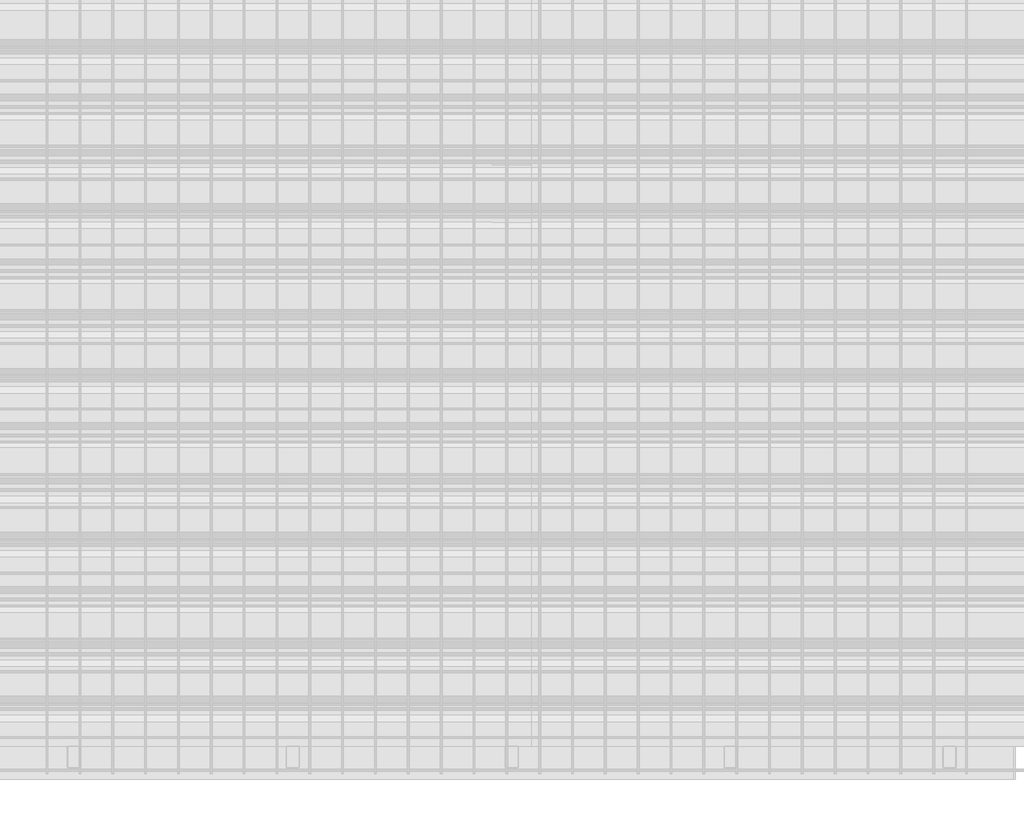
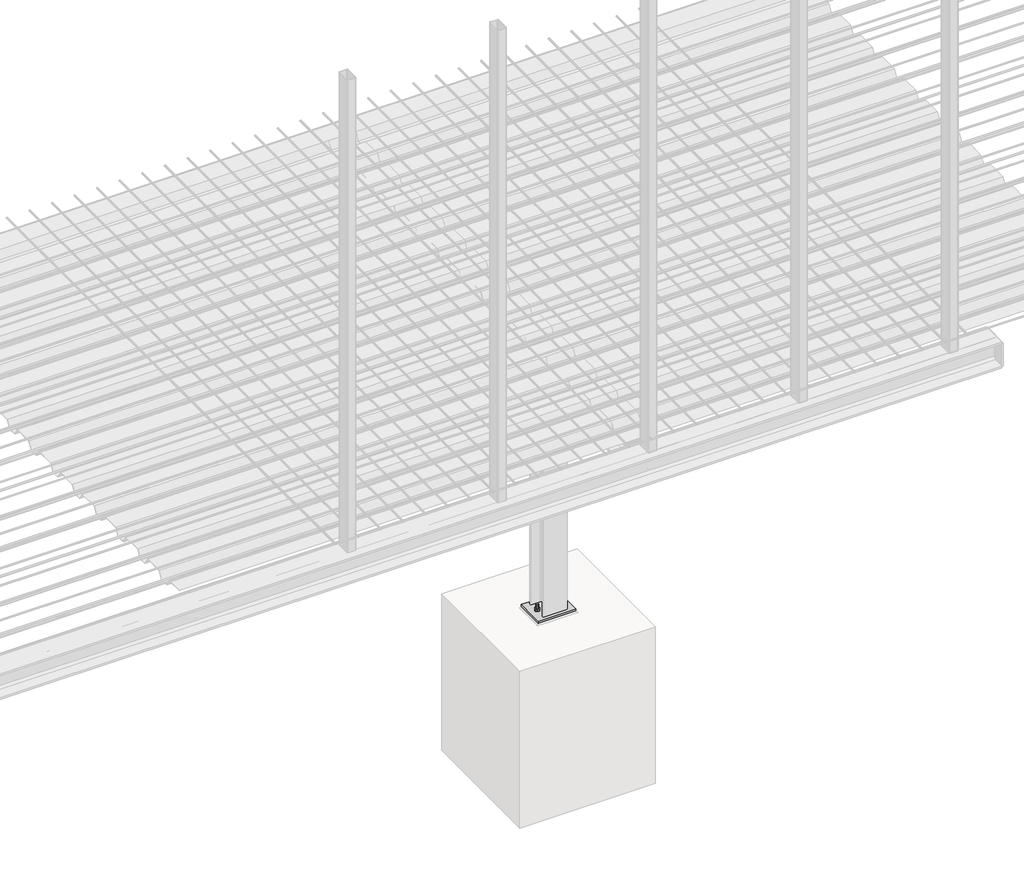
# One storey, part 10 of 36: 9 proxies.
"""IFC4 building model written with IfcOpenShell, lengths in millimetres."""

from ifc_helpers import new_model, si_unit, point, frame, frame_2d, origin, place, context, project, spatial, polyline, circle_curve, trimmed, segment, composite_curve, outline, extrude, element, save

model = new_model("IFC4")

# Units and contexts
model_context = context("Model", 3, world=origin())
ifc_project = project(units=[si_unit("LENGTHUNIT", "METRE", prefix="MILLI")], contexts=[model_context])

# Site, building, storey
site = spatial("IfcSite", under=ifc_project)
building = spatial("IfcBuilding", under=site)
storey = spatial("IfcBuildingStorey", under=building, Name="Základy", Elevation=-1200.0)

# Proxies
placement = place(None, origin())
element("IfcBuildingElementProxy", 1, Name="PLECH", ObjectType="PLECH", at=placement, inside=storey, context=model_context, shape_type="SweptSolid", body=[
    extrude(outline(polyline([(6150.0, 1200.0), (6150.0, 1320.0), (6160.0, 1320.0), (6160.0, 1200.0), (6150.0, 1200.0)])), frame((0.0, 0.0, -299.0), z_axis=(0.0, 0.0, 1.0), x_axis=(1.0, 0.0, 0.0)), (0.0, 0.0, 1.0), 98.0),
])
element("IfcBuildingElementProxy", 2, Name="PLECH", ObjectType="PLECH", at=placement, inside=storey, context=model_context, shape_type="SweptSolid", body=[
    extrude(outline(polyline([(6140.0, 1200.0), (6140.0, 1320.0), (6150.0, 1320.0), (6150.0, 1200.0), (6140.0, 1200.0)])), frame((0.0, 0.0, -332.0), z_axis=(0.0, 0.0, 1.0), x_axis=(1.0, 0.0, 0.0)), (0.0, 0.0, 1.0), 164.0),
])
element("IfcBuildingElementProxy", 3, Name="PLECH", ObjectType="PLECH", at=placement, inside=storey, context=model_context, shape_type="SweptSolid", body=[
    extrude(outline(composite_curve([segment(polyline([(-174.0, 6140.0), (-174.0, 6079.5)]), True, "CONTINUOUS"), segment(trimmed(circle_curve(frame_2d((-174.0, 6054.5)), 25.0), [point((-174.0, 6079.5))], [point((-199.0, 6054.5))], True, "CARTESIAN"), True, "CONTINUOUS"), segment(polyline([(-199.0, 6054.5), (-301.0, 6054.5)]), True, "CONTINUOUS"), segment(trimmed(circle_curve(frame_2d((-326.0, 6054.5)), 25.0), [point((-301.0, 6054.5))], [point((-326.0, 6079.5))], True, "CARTESIAN"), True, "CONTINUOUS"), segment(polyline([(-326.0, 6079.5), (-326.0, 6140.0), (-174.0, 6140.0)]), True, "CONTINUOUS")], self_intersect=False)), frame((0.0, 1256.0, 0.0), z_axis=(0.0, 1.0, 0.0), x_axis=(0.0, 0.0, 1.0)), (0.0, 0.0, 1.0), 8.0),
])
element("IfcBuildingElementProxy", 4, Name="PLECH", ObjectType="PLECH", at=placement, inside=storey, context=model_context, shape_type="SweptSolid", body=[
    extrude(outline(composite_curve([segment(polyline([(-174.0, 5960.0), (-326.0, 5960.0), (-326.0, 6020.5)]), True, "CONTINUOUS"), segment(trimmed(circle_curve(frame_2d((-326.0, 6045.5)), 25.0), [point((-326.0, 6020.5))], [point((-301.0, 6045.5))], True, "CARTESIAN"), True, "CONTINUOUS"), segment(polyline([(-301.0, 6045.5), (-199.0, 6045.5)]), True, "CONTINUOUS"), segment(trimmed(circle_curve(frame_2d((-174.0, 6045.5)), 25.0), [point((-199.0, 6045.5))], [point((-174.0, 6020.5))], True, "CARTESIAN"), True, "CONTINUOUS"), segment(polyline([(-174.0, 6020.5), (-174.0, 5960.0)]), True, "CONTINUOUS")], self_intersect=False)), frame((0.0, 1256.0, 0.0), z_axis=(0.0, 1.0, 0.0), x_axis=(0.0, 0.0, 1.0)), (0.0, 0.0, 1.0), 8.0),
])
element("IfcBuildingElementProxy", 5, Name="PLECH", ObjectType="PLECH", at=placement, inside=storey, context=model_context, shape_type="SweptSolid", body=[
    extrude(outline(polyline([(6175.0, 1356.0), (6175.0, 1164.0), (5925.0, 1164.0), (5925.0, 1356.0), (6175.0, 1356.0)])), frame((0.0, 0.0, -1990.0), z_axis=(0.0, 0.0, 1.0), x_axis=(1.0, 0.0, 0.0)), (0.0, 0.0, 1.0), 15.0),
])
element("IfcBuildingElementProxy", 6, Name="PLECH", ObjectType="PLECH", at=placement, inside=storey, context=model_context, shape_type="SweptSolid", body=[
    extrude(outline(polyline([(6140.0, 1346.0), (6140.0, 1174.0), (5960.0, 1174.0), (5960.0, 1346.0), (6140.0, 1346.0)])), frame((0.0, 0.0, -350.0), z_axis=(0.0, 0.0, 1.0), x_axis=(1.0, 0.0, 0.0)), (0.0, 0.0, 1.0), 10.0),
])
element("IfcBuildingElementProxy", 7, Name="Bolt assembly", ObjectType="Bolt assembly", at=placement, inside=storey, context=model_context, shape_type="SweptSolid", body=[
    extrude(outline(composite_curve([segment(trimmed(circle_curve(frame_2d((1230.0, -225.0)), 6.5), [point((1230.0, -231.5))], [point((1230.0, -218.5))], False, "CARTESIAN"), True, "CONTINUOUS"), segment(trimmed(circle_curve(frame_2d((1230.0, -225.0)), 6.5), [point((1230.0, -218.5))], [point((1230.0, -231.5))], False, "CARTESIAN"), True, "CONTINUOUS")], self_intersect=False)), frame((6140.1, 0.0, 0.0), z_axis=(1.0, 0.0, 0.0), x_axis=(0.0, 1.0, 0.0)), (0.0, 0.0, 1.0), 10.0),
    extrude(outline(polyline([(1230.0, -235.3923048), (1221.0, -230.1961524), (1221.0, -219.8038476), (1230.0, -214.6076952), (1239.0, -219.8038476), (1239.0, -230.1961524), (1230.0, -235.3923048)])), frame((6130.0, 0.0, 0.0), z_axis=(1.0, 0.0, 0.0), x_axis=(0.0, 1.0, 0.0)), (0.0, 0.0, 1.0), 7.5),
    extrude(outline(composite_curve([segment(trimmed(circle_curve(frame_2d((1230.0, -225.0)), 6.0), [point((1230.0, -231.0))], [point((1230.0, -219.0))], False, "CARTESIAN"), True, "CONTINUOUS"), segment(trimmed(circle_curve(frame_2d((1230.0, -225.0)), 6.0), [point((1230.0, -219.0))], [point((1230.0, -231.0))], False, "CARTESIAN"), True, "CONTINUOUS")], self_intersect=False)), frame((6137.5, 0.0, 0.0), z_axis=(1.0, 0.0, 0.0), x_axis=(0.0, 1.0, 0.0)), (0.0, 0.0, 1.0), 40.0),
    extrude(outline(composite_curve([segment(trimmed(circle_curve(frame_2d((1230.0, -225.0)), 12.0), [point((1230.0, -237.0))], [point((1230.0, -213.0))], False, "CARTESIAN"), True, "CONTINUOUS"), segment(trimmed(circle_curve(frame_2d((1230.0, -225.0)), 12.0), [point((1230.0, -213.0))], [point((1230.0, -237.0))], False, "CARTESIAN"), True, "CONTINUOUS")], self_intersect=False)), frame((6137.5, 0.0, 0.0), z_axis=(1.0, 0.0, 0.0), x_axis=(0.0, 1.0, 0.0)), (0.0, 0.0, 1.0), 2.5),
    extrude(outline(composite_curve([segment(trimmed(circle_curve(frame_2d((1230.0, -225.0)), 12.0), [point((1230.0, -237.0))], [point((1230.0, -213.0))], False, "CARTESIAN"), True, "CONTINUOUS"), segment(trimmed(circle_curve(frame_2d((1230.0, -225.0)), 12.0), [point((1230.0, -213.0))], [point((1230.0, -237.0))], False, "CARTESIAN"), True, "CONTINUOUS")], self_intersect=False)), frame((6160.0, 0.0, 0.0), z_axis=(1.0, 0.0, 0.0), x_axis=(0.0, 1.0, 0.0)), (0.0, 0.0, 1.0), 2.5),
    extrude(outline(polyline([(1230.0, -235.9696551), (1220.5, -230.4848276), (1220.5, -219.5151724), (1230.0, -214.0303449), (1239.5, -219.5151724), (1239.5, -230.4848276), (1230.0, -235.9696551)])), frame((6162.5, 0.0, 0.0), z_axis=(1.0, 0.0, 0.0), x_axis=(0.0, 1.0, 0.0)), (0.0, 0.0, 1.0), 10.0),
    extrude(outline(composite_curve([segment(trimmed(circle_curve(frame_2d((1230.0, -225.0)), 6.5), [point((1230.0, -231.5))], [point((1230.0, -218.5))], False, "CARTESIAN"), True, "CONTINUOUS"), segment(trimmed(circle_curve(frame_2d((1230.0, -225.0)), 6.5), [point((1230.0, -218.5))], [point((1230.0, -231.5))], False, "CARTESIAN"), True, "CONTINUOUS")], self_intersect=False)), frame((6149.9, 0.0, 0.0), z_axis=(1.0, 0.0, 0.0), x_axis=(0.0, 1.0, 0.0)), (0.0, 0.0, 1.0), 10.1),
    extrude(outline(composite_curve([segment(trimmed(circle_curve(frame_2d((1230.0, -275.0)), 6.5), [point((1230.0, -281.5))], [point((1230.0, -268.5))], False, "CARTESIAN"), True, "CONTINUOUS"), segment(trimmed(circle_curve(frame_2d((1230.0, -275.0)), 6.5), [point((1230.0, -268.5))], [point((1230.0, -281.5))], False, "CARTESIAN"), True, "CONTINUOUS")], self_intersect=False)), frame((6140.1, 0.0, 0.0), z_axis=(1.0, 0.0, 0.0), x_axis=(0.0, 1.0, 0.0)), (0.0, 0.0, 1.0), 10.0),
    extrude(outline(polyline([(1230.0, -285.3923048), (1221.0, -280.1961524), (1221.0, -269.8038476), (1230.0, -264.6076952), (1239.0, -269.8038476), (1239.0, -280.1961524), (1230.0, -285.3923048)])), frame((6130.0, 0.0, 0.0), z_axis=(1.0, 0.0, 0.0), x_axis=(0.0, 1.0, 0.0)), (0.0, 0.0, 1.0), 7.5),
    extrude(outline(composite_curve([segment(trimmed(circle_curve(frame_2d((1230.0, -275.0)), 6.0), [point((1230.0, -281.0))], [point((1230.0, -269.0))], False, "CARTESIAN"), True, "CONTINUOUS"), segment(trimmed(circle_curve(frame_2d((1230.0, -275.0)), 6.0), [point((1230.0, -269.0))], [point((1230.0, -281.0))], False, "CARTESIAN"), True, "CONTINUOUS")], self_intersect=False)), frame((6137.5, 0.0, 0.0), z_axis=(1.0, 0.0, 0.0), x_axis=(0.0, 1.0, 0.0)), (0.0, 0.0, 1.0), 40.0),
    extrude(outline(composite_curve([segment(trimmed(circle_curve(frame_2d((1230.0, -275.0)), 12.0), [point((1230.0, -287.0))], [point((1230.0, -263.0))], False, "CARTESIAN"), True, "CONTINUOUS"), segment(trimmed(circle_curve(frame_2d((1230.0, -275.0)), 12.0), [point((1230.0, -263.0))], [point((1230.0, -287.0))], False, "CARTESIAN"), True, "CONTINUOUS")], self_intersect=False)), frame((6137.5, 0.0, 0.0), z_axis=(1.0, 0.0, 0.0), x_axis=(0.0, 1.0, 0.0)), (0.0, 0.0, 1.0), 2.5),
    extrude(outline(composite_curve([segment(trimmed(circle_curve(frame_2d((1230.0, -275.0)), 12.0), [point((1230.0, -287.0))], [point((1230.0, -263.0))], False, "CARTESIAN"), True, "CONTINUOUS"), segment(trimmed(circle_curve(frame_2d((1230.0, -275.0)), 12.0), [point((1230.0, -263.0))], [point((1230.0, -287.0))], False, "CARTESIAN"), True, "CONTINUOUS")], self_intersect=False)), frame((6160.0, 0.0, 0.0), z_axis=(1.0, 0.0, 0.0), x_axis=(0.0, 1.0, 0.0)), (0.0, 0.0, 1.0), 2.5),
    extrude(outline(polyline([(1230.0, -285.9696551), (1220.5, -280.4848276), (1220.5, -269.5151724), (1230.0, -264.0303449), (1239.5, -269.5151724), (1239.5, -280.4848276), (1230.0, -285.9696551)])), frame((6162.5, 0.0, 0.0), z_axis=(1.0, 0.0, 0.0), x_axis=(0.0, 1.0, 0.0)), (0.0, 0.0, 1.0), 10.0),
    extrude(outline(composite_curve([segment(trimmed(circle_curve(frame_2d((1230.0, -275.0)), 6.5), [point((1230.0, -281.5))], [point((1230.0, -268.5))], False, "CARTESIAN"), True, "CONTINUOUS"), segment(trimmed(circle_curve(frame_2d((1230.0, -275.0)), 6.5), [point((1230.0, -268.5))], [point((1230.0, -281.5))], False, "CARTESIAN"), True, "CONTINUOUS")], self_intersect=False)), frame((6149.9, 0.0, 0.0), z_axis=(1.0, 0.0, 0.0), x_axis=(0.0, 1.0, 0.0)), (0.0, 0.0, 1.0), 10.1),
    extrude(outline(composite_curve([segment(trimmed(circle_curve(frame_2d((1290.0, -225.0)), 6.5), [point((1290.0, -231.5))], [point((1290.0, -218.5))], False, "CARTESIAN"), True, "CONTINUOUS"), segment(trimmed(circle_curve(frame_2d((1290.0, -225.0)), 6.5), [point((1290.0, -218.5))], [point((1290.0, -231.5))], False, "CARTESIAN"), True, "CONTINUOUS")], self_intersect=False)), frame((6140.1, 0.0, 0.0), z_axis=(1.0, 0.0, 0.0), x_axis=(0.0, 1.0, 0.0)), (0.0, 0.0, 1.0), 10.0),
    extrude(outline(polyline([(1290.0, -235.3923048), (1281.0, -230.1961524), (1281.0, -219.8038476), (1290.0, -214.6076952), (1299.0, -219.8038476), (1299.0, -230.1961524), (1290.0, -235.3923048)])), frame((6130.0, 0.0, 0.0), z_axis=(1.0, 0.0, 0.0), x_axis=(0.0, 1.0, 0.0)), (0.0, 0.0, 1.0), 7.5),
    extrude(outline(composite_curve([segment(trimmed(circle_curve(frame_2d((1290.0, -225.0)), 6.0), [point((1290.0, -231.0))], [point((1290.0, -219.0))], False, "CARTESIAN"), True, "CONTINUOUS"), segment(trimmed(circle_curve(frame_2d((1290.0, -225.0)), 6.0), [point((1290.0, -219.0))], [point((1290.0, -231.0))], False, "CARTESIAN"), True, "CONTINUOUS")], self_intersect=False)), frame((6137.5, 0.0, 0.0), z_axis=(1.0, 0.0, 0.0), x_axis=(0.0, 1.0, 0.0)), (0.0, 0.0, 1.0), 40.0),
    extrude(outline(composite_curve([segment(trimmed(circle_curve(frame_2d((1290.0, -225.0)), 12.0), [point((1290.0, -237.0))], [point((1290.0, -213.0))], False, "CARTESIAN"), True, "CONTINUOUS"), segment(trimmed(circle_curve(frame_2d((1290.0, -225.0)), 12.0), [point((1290.0, -213.0))], [point((1290.0, -237.0))], False, "CARTESIAN"), True, "CONTINUOUS")], self_intersect=False)), frame((6137.5, 0.0, 0.0), z_axis=(1.0, 0.0, 0.0), x_axis=(0.0, 1.0, 0.0)), (0.0, 0.0, 1.0), 2.5),
    extrude(outline(composite_curve([segment(trimmed(circle_curve(frame_2d((1290.0, -225.0)), 12.0), [point((1290.0, -237.0))], [point((1290.0, -213.0))], False, "CARTESIAN"), True, "CONTINUOUS"), segment(trimmed(circle_curve(frame_2d((1290.0, -225.0)), 12.0), [point((1290.0, -213.0))], [point((1290.0, -237.0))], False, "CARTESIAN"), True, "CONTINUOUS")], self_intersect=False)), frame((6160.0, 0.0, 0.0), z_axis=(1.0, 0.0, 0.0), x_axis=(0.0, 1.0, 0.0)), (0.0, 0.0, 1.0), 2.5),
    extrude(outline(polyline([(1290.0, -235.9696551), (1280.5, -230.4848276), (1280.5, -219.5151724), (1290.0, -214.0303449), (1299.5, -219.5151724), (1299.5, -230.4848276), (1290.0, -235.9696551)])), frame((6162.5, 0.0, 0.0), z_axis=(1.0, 0.0, 0.0), x_axis=(0.0, 1.0, 0.0)), (0.0, 0.0, 1.0), 10.0),
    extrude(outline(composite_curve([segment(trimmed(circle_curve(frame_2d((1290.0, -225.0)), 6.5), [point((1290.0, -231.5))], [point((1290.0, -218.5))], False, "CARTESIAN"), True, "CONTINUOUS"), segment(trimmed(circle_curve(frame_2d((1290.0, -225.0)), 6.5), [point((1290.0, -218.5))], [point((1290.0, -231.5))], False, "CARTESIAN"), True, "CONTINUOUS")], self_intersect=False)), frame((6149.9, 0.0, 0.0), z_axis=(1.0, 0.0, 0.0), x_axis=(0.0, 1.0, 0.0)), (0.0, 0.0, 1.0), 10.1),
    extrude(outline(composite_curve([segment(trimmed(circle_curve(frame_2d((1290.0, -275.0)), 6.5), [point((1290.0, -281.5))], [point((1290.0, -268.5))], False, "CARTESIAN"), True, "CONTINUOUS"), segment(trimmed(circle_curve(frame_2d((1290.0, -275.0)), 6.5), [point((1290.0, -268.5))], [point((1290.0, -281.5))], False, "CARTESIAN"), True, "CONTINUOUS")], self_intersect=False)), frame((6140.1, 0.0, 0.0), z_axis=(1.0, 0.0, 0.0), x_axis=(0.0, 1.0, 0.0)), (0.0, 0.0, 1.0), 10.0),
    extrude(outline(polyline([(1290.0, -285.3923048), (1281.0, -280.1961524), (1281.0, -269.8038476), (1290.0, -264.6076952), (1299.0, -269.8038476), (1299.0, -280.1961524), (1290.0, -285.3923048)])), frame((6130.0, 0.0, 0.0), z_axis=(1.0, 0.0, 0.0), x_axis=(0.0, 1.0, 0.0)), (0.0, 0.0, 1.0), 7.5),
    extrude(outline(composite_curve([segment(trimmed(circle_curve(frame_2d((1290.0, -275.0)), 6.0), [point((1290.0, -281.0))], [point((1290.0, -269.0))], False, "CARTESIAN"), True, "CONTINUOUS"), segment(trimmed(circle_curve(frame_2d((1290.0, -275.0)), 6.0), [point((1290.0, -269.0))], [point((1290.0, -281.0))], False, "CARTESIAN"), True, "CONTINUOUS")], self_intersect=False)), frame((6137.5, 0.0, 0.0), z_axis=(1.0, 0.0, 0.0), x_axis=(0.0, 1.0, 0.0)), (0.0, 0.0, 1.0), 40.0),
    extrude(outline(composite_curve([segment(trimmed(circle_curve(frame_2d((1290.0, -275.0)), 12.0), [point((1290.0, -287.0))], [point((1290.0, -263.0))], False, "CARTESIAN"), True, "CONTINUOUS"), segment(trimmed(circle_curve(frame_2d((1290.0, -275.0)), 12.0), [point((1290.0, -263.0))], [point((1290.0, -287.0))], False, "CARTESIAN"), True, "CONTINUOUS")], self_intersect=False)), frame((6137.5, 0.0, 0.0), z_axis=(1.0, 0.0, 0.0), x_axis=(0.0, 1.0, 0.0)), (0.0, 0.0, 1.0), 2.5),
    extrude(outline(composite_curve([segment(trimmed(circle_curve(frame_2d((1290.0, -275.0)), 12.0), [point((1290.0, -287.0))], [point((1290.0, -263.0))], False, "CARTESIAN"), True, "CONTINUOUS"), segment(trimmed(circle_curve(frame_2d((1290.0, -275.0)), 12.0), [point((1290.0, -263.0))], [point((1290.0, -287.0))], False, "CARTESIAN"), True, "CONTINUOUS")], self_intersect=False)), frame((6160.0, 0.0, 0.0), z_axis=(1.0, 0.0, 0.0), x_axis=(0.0, 1.0, 0.0)), (0.0, 0.0, 1.0), 2.5),
    extrude(outline(polyline([(1290.0, -285.9696551), (1280.5, -280.4848276), (1280.5, -269.5151724), (1290.0, -264.0303449), (1299.5, -269.5151724), (1299.5, -280.4848276), (1290.0, -285.9696551)])), frame((6162.5, 0.0, 0.0), z_axis=(1.0, 0.0, 0.0), x_axis=(0.0, 1.0, 0.0)), (0.0, 0.0, 1.0), 10.0),
    extrude(outline(composite_curve([segment(trimmed(circle_curve(frame_2d((1290.0, -275.0)), 6.5), [point((1290.0, -281.5))], [point((1290.0, -268.5))], False, "CARTESIAN"), True, "CONTINUOUS"), segment(trimmed(circle_curve(frame_2d((1290.0, -275.0)), 6.5), [point((1290.0, -268.5))], [point((1290.0, -281.5))], False, "CARTESIAN"), True, "CONTINUOUS")], self_intersect=False)), frame((6149.9, 0.0, 0.0), z_axis=(1.0, 0.0, 0.0), x_axis=(0.0, 1.0, 0.0)), (0.0, 0.0, 1.0), 10.1),
])
element("IfcBuildingElementProxy", 8, Name="Bolt assembly", ObjectType="Bolt assembly", at=placement, inside=storey, context=model_context, shape_type="SweptSolid", body=[
    extrude(outline(polyline([(5982.7364934, 1260.0), (5978.8682467, 1253.3000002), (5971.1317533, 1253.3000002), (5967.2635066, 1260.0), (5971.1317533, 1266.6999998), (5978.8682467, 1266.6999998), (5982.7364934, 1260.0)])), frame((0.0, 0.0, -2122.0), z_axis=(0.0, 0.0, 1.0), x_axis=(1.0, 0.0, 0.0)), (0.0, 0.0, 1.0), 132.0),
    extrude(outline(composite_curve([segment(trimmed(circle_curve(frame_2d((5975.0, 1260.0)), 8.0), [point((5983.0, 1260.0))], [point((5967.0, 1260.0))], False, "CARTESIAN"), True, "CONTINUOUS"), segment(trimmed(circle_curve(frame_2d((5975.0, 1260.0)), 8.0), [point((5967.0, 1260.0))], [point((5983.0, 1260.0))], False, "CARTESIAN"), True, "CONTINUOUS")], self_intersect=False)), frame((0.0, 0.0, -1990.0), z_axis=(0.0, 0.0, 1.0), x_axis=(1.0, 0.0, 0.0)), (0.0, 0.0, 1.0), 58.0),
    extrude(outline(composite_curve([segment(trimmed(circle_curve(frame_2d((5975.0, 1260.0)), 15.0), [point((5990.0, 1260.0))], [point((5960.0, 1260.0))], False, "CARTESIAN"), True, "CONTINUOUS"), segment(trimmed(circle_curve(frame_2d((5975.0, 1260.0)), 15.0), [point((5960.0, 1260.0))], [point((5990.0, 1260.0))], False, "CARTESIAN"), True, "CONTINUOUS")], self_intersect=False)), frame((0.0, 0.0, -1975.0), z_axis=(0.0, 0.0, 1.0), x_axis=(1.0, 0.0, 0.0)), (0.0, 0.0, 1.0), 3.0),
    extrude(outline(polyline([(5990.4441197, 1260.0), (5982.7220599, 1246.625), (5967.2779401, 1246.625), (5959.5558803, 1260.0), (5967.2779401, 1273.375), (5982.7220599, 1273.375), (5990.4441197, 1260.0)])), frame((0.0, 0.0, -1972.0), z_axis=(0.0, 0.0, 1.0), x_axis=(1.0, 0.0, 0.0)), (0.0, 0.0, 1.0), 13.0),
    extrude(outline(composite_curve([segment(trimmed(circle_curve(frame_2d((5975.0, 1260.0)), 9.0), [point((5984.0, 1260.0))], [point((5966.0, 1260.0))], False, "CARTESIAN"), True, "CONTINUOUS"), segment(trimmed(circle_curve(frame_2d((5975.0, 1260.0)), 9.0), [point((5966.0, 1260.0))], [point((5984.0, 1260.0))], False, "CARTESIAN"), True, "CONTINUOUS")], self_intersect=False)), frame((0.0, 0.0, -1990.0), z_axis=(0.0, 0.0, 1.0), x_axis=(1.0, 0.0, 0.0)), (0.0, 0.0, 1.0), 15.1),
    extrude(outline(polyline([(6132.7364934, 1260.0), (6128.8682467, 1253.3000002), (6121.1317533, 1253.3000002), (6117.2635066, 1260.0), (6121.1317533, 1266.6999998), (6128.8682467, 1266.6999998), (6132.7364934, 1260.0)])), frame((0.0, 0.0, -2122.0), z_axis=(0.0, 0.0, 1.0), x_axis=(1.0, 0.0, 0.0)), (0.0, 0.0, 1.0), 132.0),
    extrude(outline(composite_curve([segment(trimmed(circle_curve(frame_2d((6125.0, 1260.0)), 8.0), [point((6133.0, 1260.0))], [point((6117.0, 1260.0))], False, "CARTESIAN"), True, "CONTINUOUS"), segment(trimmed(circle_curve(frame_2d((6125.0, 1260.0)), 8.0), [point((6117.0, 1260.0))], [point((6133.0, 1260.0))], False, "CARTESIAN"), True, "CONTINUOUS")], self_intersect=False)), frame((0.0, 0.0, -1990.0), z_axis=(0.0, 0.0, 1.0), x_axis=(1.0, 0.0, 0.0)), (0.0, 0.0, 1.0), 58.0),
    extrude(outline(composite_curve([segment(trimmed(circle_curve(frame_2d((6125.0, 1260.0)), 15.0), [point((6140.0, 1260.0))], [point((6110.0, 1260.0))], False, "CARTESIAN"), True, "CONTINUOUS"), segment(trimmed(circle_curve(frame_2d((6125.0, 1260.0)), 15.0), [point((6110.0, 1260.0))], [point((6140.0, 1260.0))], False, "CARTESIAN"), True, "CONTINUOUS")], self_intersect=False)), frame((0.0, 0.0, -1975.0), z_axis=(0.0, 0.0, 1.0), x_axis=(1.0, 0.0, 0.0)), (0.0, 0.0, 1.0), 3.0),
    extrude(outline(polyline([(6140.4441197, 1260.0), (6132.7220599, 1246.625), (6117.2779401, 1246.625), (6109.5558803, 1260.0), (6117.2779401, 1273.375), (6132.7220599, 1273.375), (6140.4441197, 1260.0)])), frame((0.0, 0.0, -1972.0), z_axis=(0.0, 0.0, 1.0), x_axis=(1.0, 0.0, 0.0)), (0.0, 0.0, 1.0), 13.0),
    extrude(outline(composite_curve([segment(trimmed(circle_curve(frame_2d((6125.0, 1260.0)), 9.0), [point((6134.0, 1260.0))], [point((6116.0, 1260.0))], False, "CARTESIAN"), True, "CONTINUOUS"), segment(trimmed(circle_curve(frame_2d((6125.0, 1260.0)), 9.0), [point((6116.0, 1260.0))], [point((6134.0, 1260.0))], False, "CARTESIAN"), True, "CONTINUOUS")], self_intersect=False)), frame((0.0, 0.0, -1990.0), z_axis=(0.0, 0.0, 1.0), x_axis=(1.0, 0.0, 0.0)), (0.0, 0.0, 1.0), 15.1),
])
element("IfcBuildingElementProxy", 9, Name="Bolt assembly", ObjectType="Bolt assembly", at=placement, inside=storey, context=model_context, shape_type="SweptSolid", body=[
    extrude(outline(composite_curve([segment(trimmed(circle_curve(frame_2d((-290.0, 6005.0)), 9.0), [point((-290.0, 6014.0))], [point((-290.0, 5996.0))], False, "CARTESIAN"), True, "CONTINUOUS"), segment(trimmed(circle_curve(frame_2d((-290.0, 6005.0)), 9.0), [point((-290.0, 5996.0))], [point((-290.0, 6014.0))], False, "CARTESIAN"), True, "CONTINUOUS")], self_intersect=False)), frame((0.0, 190.1, 0.0), z_axis=(0.0, 1.0, 0.0), x_axis=(0.0, 0.0, 1.0)), (0.0, 0.0, 1.0), 10.0),
    extrude(outline(polyline([(-290.0, 6018.8564065), (-278.0, 6011.9282032), (-278.0, 5998.0717968), (-290.0, 5991.1435935), (-302.0, 5998.0717968), (-302.0, 6011.9282032), (-290.0, 6018.8564065)])), frame((0.0, 177.0, 0.0), z_axis=(0.0, 1.0, 0.0), x_axis=(0.0, 0.0, 1.0)), (0.0, 0.0, 1.0), 10.0),
    extrude(outline(composite_curve([segment(trimmed(circle_curve(frame_2d((-290.0, 6005.0)), 8.0), [point((-290.0, 6013.0))], [point((-290.0, 5997.0))], False, "CARTESIAN"), True, "CONTINUOUS"), segment(trimmed(circle_curve(frame_2d((-290.0, 6005.0)), 8.0), [point((-290.0, 5997.0))], [point((-290.0, 6013.0))], False, "CARTESIAN"), True, "CONTINUOUS")], self_intersect=False)), frame((0.0, 187.0, 0.0), z_axis=(0.0, 1.0, 0.0), x_axis=(0.0, 0.0, 1.0)), (0.0, 0.0, 1.0), 50.0),
    extrude(outline(composite_curve([segment(trimmed(circle_curve(frame_2d((-290.0, 6005.0)), 15.0), [point((-290.0, 6020.0))], [point((-290.0, 5990.0))], False, "CARTESIAN"), True, "CONTINUOUS"), segment(trimmed(circle_curve(frame_2d((-290.0, 6005.0)), 15.0), [point((-290.0, 5990.0))], [point((-290.0, 6020.0))], False, "CARTESIAN"), True, "CONTINUOUS")], self_intersect=False)), frame((0.0, 187.0, 0.0), z_axis=(0.0, 1.0, 0.0), x_axis=(0.0, 0.0, 1.0)), (0.0, 0.0, 1.0), 3.0),
    extrude(outline(composite_curve([segment(trimmed(circle_curve(frame_2d((-290.0, 6005.0)), 15.0), [point((-290.0, 6020.0))], [point((-290.0, 5990.0))], False, "CARTESIAN"), True, "CONTINUOUS"), segment(trimmed(circle_curve(frame_2d((-290.0, 6005.0)), 15.0), [point((-290.0, 5990.0))], [point((-290.0, 6020.0))], False, "CARTESIAN"), True, "CONTINUOUS")], self_intersect=False)), frame((0.0, 210.0, 0.0), z_axis=(0.0, 1.0, 0.0), x_axis=(0.0, 0.0, 1.0)), (0.0, 0.0, 1.0), 3.0),
    extrude(outline(polyline([(-290.0, 6020.4441197), (-276.625, 6012.7220599), (-276.625, 5997.2779401), (-290.0, 5989.5558803), (-303.375, 5997.2779401), (-303.375, 6012.7220599), (-290.0, 6020.4441197)])), frame((0.0, 213.0, 0.0), z_axis=(0.0, 1.0, 0.0), x_axis=(0.0, 0.0, 1.0)), (0.0, 0.0, 1.0), 13.0),
    extrude(outline(composite_curve([segment(trimmed(circle_curve(frame_2d((-290.0, 6005.0)), 9.0), [point((-290.0, 6014.0))], [point((-290.0, 5996.0))], False, "CARTESIAN"), True, "CONTINUOUS"), segment(trimmed(circle_curve(frame_2d((-290.0, 6005.0)), 9.0), [point((-290.0, 5996.0))], [point((-290.0, 6014.0))], False, "CARTESIAN"), True, "CONTINUOUS")], self_intersect=False)), frame((0.0, 199.9, 0.0), z_axis=(0.0, 1.0, 0.0), x_axis=(0.0, 0.0, 1.0)), (0.0, 0.0, 1.0), 10.1),
    extrude(outline(composite_curve([segment(trimmed(circle_curve(frame_2d((-290.0, 6095.0)), 9.0), [point((-290.0, 6104.0))], [point((-290.0, 6086.0))], False, "CARTESIAN"), True, "CONTINUOUS"), segment(trimmed(circle_curve(frame_2d((-290.0, 6095.0)), 9.0), [point((-290.0, 6086.0))], [point((-290.0, 6104.0))], False, "CARTESIAN"), True, "CONTINUOUS")], self_intersect=False)), frame((0.0, 190.1, 0.0), z_axis=(0.0, 1.0, 0.0), x_axis=(0.0, 0.0, 1.0)), (0.0, 0.0, 1.0), 10.0),
    extrude(outline(polyline([(-290.0, 6108.8564065), (-278.0, 6101.9282032), (-278.0, 6088.0717968), (-290.0, 6081.1435935), (-302.0, 6088.0717968), (-302.0, 6101.9282032), (-290.0, 6108.8564065)])), frame((0.0, 177.0, 0.0), z_axis=(0.0, 1.0, 0.0), x_axis=(0.0, 0.0, 1.0)), (0.0, 0.0, 1.0), 10.0),
    extrude(outline(composite_curve([segment(trimmed(circle_curve(frame_2d((-290.0, 6095.0)), 8.0), [point((-290.0, 6103.0))], [point((-290.0, 6087.0))], False, "CARTESIAN"), True, "CONTINUOUS"), segment(trimmed(circle_curve(frame_2d((-290.0, 6095.0)), 8.0), [point((-290.0, 6087.0))], [point((-290.0, 6103.0))], False, "CARTESIAN"), True, "CONTINUOUS")], self_intersect=False)), frame((0.0, 187.0, 0.0), z_axis=(0.0, 1.0, 0.0), x_axis=(0.0, 0.0, 1.0)), (0.0, 0.0, 1.0), 50.0),
    extrude(outline(composite_curve([segment(trimmed(circle_curve(frame_2d((-290.0, 6095.0)), 15.0), [point((-290.0, 6110.0))], [point((-290.0, 6080.0))], False, "CARTESIAN"), True, "CONTINUOUS"), segment(trimmed(circle_curve(frame_2d((-290.0, 6095.0)), 15.0), [point((-290.0, 6080.0))], [point((-290.0, 6110.0))], False, "CARTESIAN"), True, "CONTINUOUS")], self_intersect=False)), frame((0.0, 187.0, 0.0), z_axis=(0.0, 1.0, 0.0), x_axis=(0.0, 0.0, 1.0)), (0.0, 0.0, 1.0), 3.0),
    extrude(outline(composite_curve([segment(trimmed(circle_curve(frame_2d((-290.0, 6095.0)), 15.0), [point((-290.0, 6110.0))], [point((-290.0, 6080.0))], False, "CARTESIAN"), True, "CONTINUOUS"), segment(trimmed(circle_curve(frame_2d((-290.0, 6095.0)), 15.0), [point((-290.0, 6080.0))], [point((-290.0, 6110.0))], False, "CARTESIAN"), True, "CONTINUOUS")], self_intersect=False)), frame((0.0, 210.0, 0.0), z_axis=(0.0, 1.0, 0.0), x_axis=(0.0, 0.0, 1.0)), (0.0, 0.0, 1.0), 3.0),
    extrude(outline(polyline([(-290.0, 6110.4441197), (-276.625, 6102.7220599), (-276.625, 6087.2779401), (-290.0, 6079.5558803), (-303.375, 6087.2779401), (-303.375, 6102.7220599), (-290.0, 6110.4441197)])), frame((0.0, 213.0, 0.0), z_axis=(0.0, 1.0, 0.0), x_axis=(0.0, 0.0, 1.0)), (0.0, 0.0, 1.0), 13.0),
    extrude(outline(composite_curve([segment(trimmed(circle_curve(frame_2d((-290.0, 6095.0)), 9.0), [point((-290.0, 6104.0))], [point((-290.0, 6086.0))], False, "CARTESIAN"), True, "CONTINUOUS"), segment(trimmed(circle_curve(frame_2d((-290.0, 6095.0)), 9.0), [point((-290.0, 6086.0))], [point((-290.0, 6104.0))], False, "CARTESIAN"), True, "CONTINUOUS")], self_intersect=False)), frame((0.0, 199.9, 0.0), z_axis=(0.0, 1.0, 0.0), x_axis=(0.0, 0.0, 1.0)), (0.0, 0.0, 1.0), 10.1),
    extrude(outline(composite_curve([segment(trimmed(circle_curve(frame_2d((-210.0, 6005.0)), 9.0), [point((-210.0, 6014.0))], [point((-210.0, 5996.0))], False, "CARTESIAN"), True, "CONTINUOUS"), segment(trimmed(circle_curve(frame_2d((-210.0, 6005.0)), 9.0), [point((-210.0, 5996.0))], [point((-210.0, 6014.0))], False, "CARTESIAN"), True, "CONTINUOUS")], self_intersect=False)), frame((0.0, 190.1, 0.0), z_axis=(0.0, 1.0, 0.0), x_axis=(0.0, 0.0, 1.0)), (0.0, 0.0, 1.0), 10.0),
    extrude(outline(polyline([(-210.0, 6018.8564065), (-198.0, 6011.9282032), (-198.0, 5998.0717968), (-210.0, 5991.1435935), (-222.0, 5998.0717968), (-222.0, 6011.9282032), (-210.0, 6018.8564065)])), frame((0.0, 177.0, 0.0), z_axis=(0.0, 1.0, 0.0), x_axis=(0.0, 0.0, 1.0)), (0.0, 0.0, 1.0), 10.0),
    extrude(outline(composite_curve([segment(trimmed(circle_curve(frame_2d((-210.0, 6005.0)), 8.0), [point((-210.0, 6013.0))], [point((-210.0, 5997.0))], False, "CARTESIAN"), True, "CONTINUOUS"), segment(trimmed(circle_curve(frame_2d((-210.0, 6005.0)), 8.0), [point((-210.0, 5997.0))], [point((-210.0, 6013.0))], False, "CARTESIAN"), True, "CONTINUOUS")], self_intersect=False)), frame((0.0, 187.0, 0.0), z_axis=(0.0, 1.0, 0.0), x_axis=(0.0, 0.0, 1.0)), (0.0, 0.0, 1.0), 50.0),
    extrude(outline(composite_curve([segment(trimmed(circle_curve(frame_2d((-210.0, 6005.0)), 15.0), [point((-210.0, 6020.0))], [point((-210.0, 5990.0))], False, "CARTESIAN"), True, "CONTINUOUS"), segment(trimmed(circle_curve(frame_2d((-210.0, 6005.0)), 15.0), [point((-210.0, 5990.0))], [point((-210.0, 6020.0))], False, "CARTESIAN"), True, "CONTINUOUS")], self_intersect=False)), frame((0.0, 187.0, 0.0), z_axis=(0.0, 1.0, 0.0), x_axis=(0.0, 0.0, 1.0)), (0.0, 0.0, 1.0), 3.0),
    extrude(outline(composite_curve([segment(trimmed(circle_curve(frame_2d((-210.0, 6005.0)), 15.0), [point((-210.0, 6020.0))], [point((-210.0, 5990.0))], False, "CARTESIAN"), True, "CONTINUOUS"), segment(trimmed(circle_curve(frame_2d((-210.0, 6005.0)), 15.0), [point((-210.0, 5990.0))], [point((-210.0, 6020.0))], False, "CARTESIAN"), True, "CONTINUOUS")], self_intersect=False)), frame((0.0, 210.0, 0.0), z_axis=(0.0, 1.0, 0.0), x_axis=(0.0, 0.0, 1.0)), (0.0, 0.0, 1.0), 3.0),
    extrude(outline(polyline([(-210.0, 6020.4441197), (-196.625, 6012.7220599), (-196.625, 5997.2779401), (-210.0, 5989.5558803), (-223.375, 5997.2779401), (-223.375, 6012.7220599), (-210.0, 6020.4441197)])), frame((0.0, 213.0, 0.0), z_axis=(0.0, 1.0, 0.0), x_axis=(0.0, 0.0, 1.0)), (0.0, 0.0, 1.0), 13.0),
    extrude(outline(composite_curve([segment(trimmed(circle_curve(frame_2d((-210.0, 6005.0)), 9.0), [point((-210.0, 6014.0))], [point((-210.0, 5996.0))], False, "CARTESIAN"), True, "CONTINUOUS"), segment(trimmed(circle_curve(frame_2d((-210.0, 6005.0)), 9.0), [point((-210.0, 5996.0))], [point((-210.0, 6014.0))], False, "CARTESIAN"), True, "CONTINUOUS")], self_intersect=False)), frame((0.0, 199.9, 0.0), z_axis=(0.0, 1.0, 0.0), x_axis=(0.0, 0.0, 1.0)), (0.0, 0.0, 1.0), 10.1),
    extrude(outline(composite_curve([segment(trimmed(circle_curve(frame_2d((-210.0, 6095.0)), 9.0), [point((-210.0, 6104.0))], [point((-210.0, 6086.0))], False, "CARTESIAN"), True, "CONTINUOUS"), segment(trimmed(circle_curve(frame_2d((-210.0, 6095.0)), 9.0), [point((-210.0, 6086.0))], [point((-210.0, 6104.0))], False, "CARTESIAN"), True, "CONTINUOUS")], self_intersect=False)), frame((0.0, 190.1, 0.0), z_axis=(0.0, 1.0, 0.0), x_axis=(0.0, 0.0, 1.0)), (0.0, 0.0, 1.0), 10.0),
    extrude(outline(polyline([(-210.0, 6108.8564065), (-198.0, 6101.9282032), (-198.0, 6088.0717968), (-210.0, 6081.1435935), (-222.0, 6088.0717968), (-222.0, 6101.9282032), (-210.0, 6108.8564065)])), frame((0.0, 177.0, 0.0), z_axis=(0.0, 1.0, 0.0), x_axis=(0.0, 0.0, 1.0)), (0.0, 0.0, 1.0), 10.0),
    extrude(outline(composite_curve([segment(trimmed(circle_curve(frame_2d((-210.0, 6095.0)), 8.0), [point((-210.0, 6103.0))], [point((-210.0, 6087.0))], False, "CARTESIAN"), True, "CONTINUOUS"), segment(trimmed(circle_curve(frame_2d((-210.0, 6095.0)), 8.0), [point((-210.0, 6087.0))], [point((-210.0, 6103.0))], False, "CARTESIAN"), True, "CONTINUOUS")], self_intersect=False)), frame((0.0, 187.0, 0.0), z_axis=(0.0, 1.0, 0.0), x_axis=(0.0, 0.0, 1.0)), (0.0, 0.0, 1.0), 50.0),
    extrude(outline(composite_curve([segment(trimmed(circle_curve(frame_2d((-210.0, 6095.0)), 15.0), [point((-210.0, 6110.0))], [point((-210.0, 6080.0))], False, "CARTESIAN"), True, "CONTINUOUS"), segment(trimmed(circle_curve(frame_2d((-210.0, 6095.0)), 15.0), [point((-210.0, 6080.0))], [point((-210.0, 6110.0))], False, "CARTESIAN"), True, "CONTINUOUS")], self_intersect=False)), frame((0.0, 187.0, 0.0), z_axis=(0.0, 1.0, 0.0), x_axis=(0.0, 0.0, 1.0)), (0.0, 0.0, 1.0), 3.0),
    extrude(outline(composite_curve([segment(trimmed(circle_curve(frame_2d((-210.0, 6095.0)), 15.0), [point((-210.0, 6110.0))], [point((-210.0, 6080.0))], False, "CARTESIAN"), True, "CONTINUOUS"), segment(trimmed(circle_curve(frame_2d((-210.0, 6095.0)), 15.0), [point((-210.0, 6080.0))], [point((-210.0, 6110.0))], False, "CARTESIAN"), True, "CONTINUOUS")], self_intersect=False)), frame((0.0, 210.0, 0.0), z_axis=(0.0, 1.0, 0.0), x_axis=(0.0, 0.0, 1.0)), (0.0, 0.0, 1.0), 3.0),
    extrude(outline(polyline([(-210.0, 6110.4441197), (-196.625, 6102.7220599), (-196.625, 6087.2779401), (-210.0, 6079.5558803), (-223.375, 6087.2779401), (-223.375, 6102.7220599), (-210.0, 6110.4441197)])), frame((0.0, 213.0, 0.0), z_axis=(0.0, 1.0, 0.0), x_axis=(0.0, 0.0, 1.0)), (0.0, 0.0, 1.0), 13.0),
    extrude(outline(composite_curve([segment(trimmed(circle_curve(frame_2d((-210.0, 6095.0)), 9.0), [point((-210.0, 6104.0))], [point((-210.0, 6086.0))], False, "CARTESIAN"), True, "CONTINUOUS"), segment(trimmed(circle_curve(frame_2d((-210.0, 6095.0)), 9.0), [point((-210.0, 6086.0))], [point((-210.0, 6104.0))], False, "CARTESIAN"), True, "CONTINUOUS")], self_intersect=False)), frame((0.0, 199.9, 0.0), z_axis=(0.0, 1.0, 0.0), x_axis=(0.0, 0.0, 1.0)), (0.0, 0.0, 1.0), 10.1),
])

save(model, "model.ifc")
